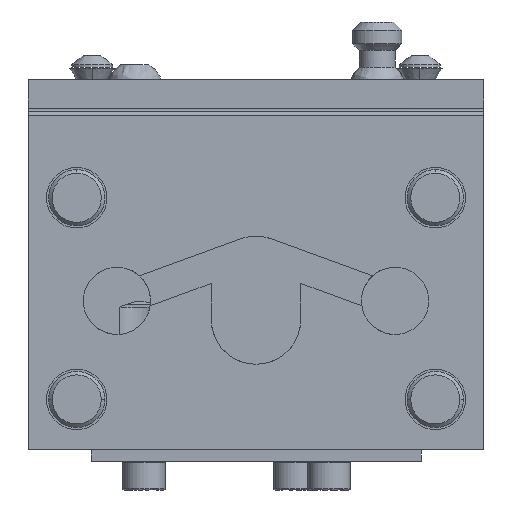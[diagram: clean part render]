
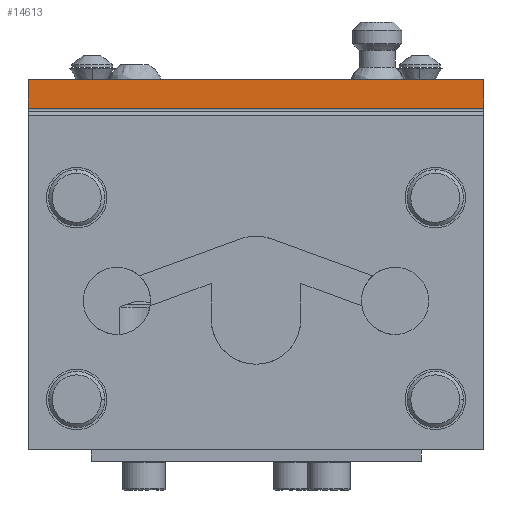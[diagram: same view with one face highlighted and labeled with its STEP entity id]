
A CAD part, front view. The second image highlights one B-rep face of the part: STEP entity #14613.
In plain terms, the highlighted planar face has unit normal (0, -1, 0).
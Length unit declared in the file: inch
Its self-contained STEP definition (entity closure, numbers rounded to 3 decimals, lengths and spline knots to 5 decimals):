
#191 = CARTESIAN_POINT ( 'NONE',  ( -2.76172, -1.87835, 0.44297 ) ) ;
#757 = VECTOR ( 'NONE', #3494, 39.37008 ) ;
#1480 = AXIS2_PLACEMENT_3D ( 'NONE', #191, #14335, #9786 ) ;
#1569 = CARTESIAN_POINT ( 'NONE',  ( -2.76172, -1.87835, 0.44297 ) ) ;
#2040 = ORIENTED_EDGE ( 'NONE', *, *, #13520, .T. ) ;
#2181 = VECTOR ( 'NONE', #3502, 39.37008 ) ;
#2250 = EDGE_CURVE ( 'NONE', #11569, #3103, #3959, .T. ) ;
#2681 = VERTEX_POINT ( 'NONE', #5329 ) ;
#3103 = VERTEX_POINT ( 'NONE', #10857 ) ;
#3472 = VERTEX_POINT ( 'NONE', #8532 ) ;
#3494 = DIRECTION ( 'NONE',  ( 0., 0., -1. ) ) ;
#3502 = DIRECTION ( 'NONE',  ( 0., 0., 1. ) ) ;
#3959 = LINE ( 'NONE', #16421, #12634 ) ;
#4747 = FACE_OUTER_BOUND ( 'NONE', #14712, .T. ) ;
#5329 = CARTESIAN_POINT ( 'NONE',  ( 1.23828, -1.87835, 0.69297 ) ) ;
#7750 = LINE ( 'NONE', #12294, #14663 ) ;
#7854 = ORIENTED_EDGE ( 'NONE', *, *, #17479, .T. ) ;
#8170 = PLANE ( 'NONE',  #1480 ) ;
#8532 = CARTESIAN_POINT ( 'NONE',  ( -2.76172, -1.87835, 0.69297 ) ) ;
#8653 = EDGE_CURVE ( 'NONE', #3472, #11569, #18889, .T. ) ;
#8774 = ORIENTED_EDGE ( 'NONE', *, *, #8653, .T. ) ;
#9241 = ORIENTED_EDGE ( 'NONE', *, *, #2250, .T. ) ;
#9786 = DIRECTION ( 'NONE',  ( 0., 0., -1. ) ) ;
#10857 = CARTESIAN_POINT ( 'NONE',  ( 1.23828, -1.87835, 0.44297 ) ) ;
#11569 = VERTEX_POINT ( 'NONE', #1569 ) ;
#12294 = CARTESIAN_POINT ( 'NONE',  ( -2.76172, -1.87835, 0.69297 ) ) ;
#12634 = VECTOR ( 'NONE', #19470, 39.37008 ) ;
#13520 = EDGE_CURVE ( 'NONE', #2681, #3472, #7750, .T. ) ;
#14335 = DIRECTION ( 'NONE',  ( 0., -1., 0. ) ) ;
#14613 = ADVANCED_FACE ( 'NONE', ( #4747 ), #8170, .T. ) ;
#14663 = VECTOR ( 'NONE', #17070, 39.37008 ) ;
#14712 = EDGE_LOOP ( 'NONE', ( #9241, #7854, #2040, #8774 ) ) ;
#15743 = LINE ( 'NONE', #15838, #2181 ) ;
#15838 = CARTESIAN_POINT ( 'NONE',  ( 1.23828, -1.87835, -2.55703 ) ) ;
#16421 = CARTESIAN_POINT ( 'NONE',  ( -2.76172, -1.87835, 0.44297 ) ) ;
#17070 = DIRECTION ( 'NONE',  ( -1., 0., 0. ) ) ;
#17269 = CARTESIAN_POINT ( 'NONE',  ( -2.76172, -1.87835, -2.55703 ) ) ;
#17479 = EDGE_CURVE ( 'NONE', #3103, #2681, #15743, .T. ) ;
#18889 = LINE ( 'NONE', #17269, #757 ) ;
#19470 = DIRECTION ( 'NONE',  ( 1., 0., 0. ) ) ;
